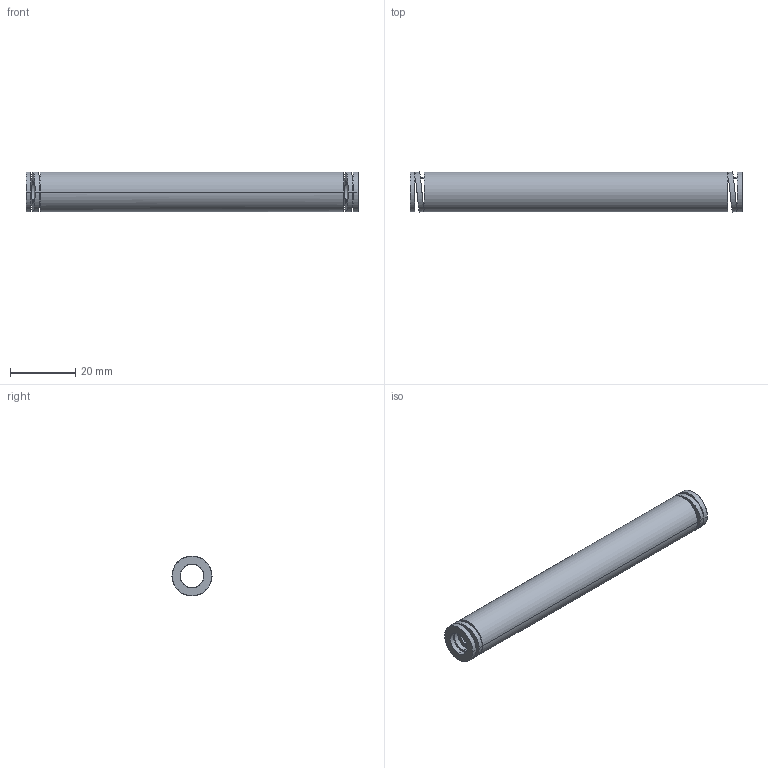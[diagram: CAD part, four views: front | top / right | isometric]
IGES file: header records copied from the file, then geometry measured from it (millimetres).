
Start section: START RECORD GO HERE.
Global section: file name: 392-B13-102.igs; native system: DASSAULT SYSTEMES CATIA V5 R20 - www.3ds.com; preprocessor: CATIA Version 5 Release 20 ; author: Utente; organization: NB04-ASUS; date: 20210812.144313; units: millimetre
Bounding box: 102 x 12.29 x 12.2 mm (x, y, z)
Surface area: 6817.4 mm2 (no closed solid volume)
Topology: 0 solids, 0 shells, 38 faces, 184 edges, 184 vertices
Faces by surface type: revolution 28, plane 10
